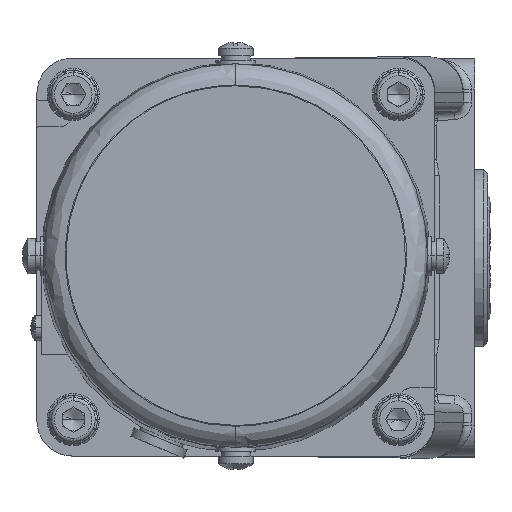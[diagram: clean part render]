
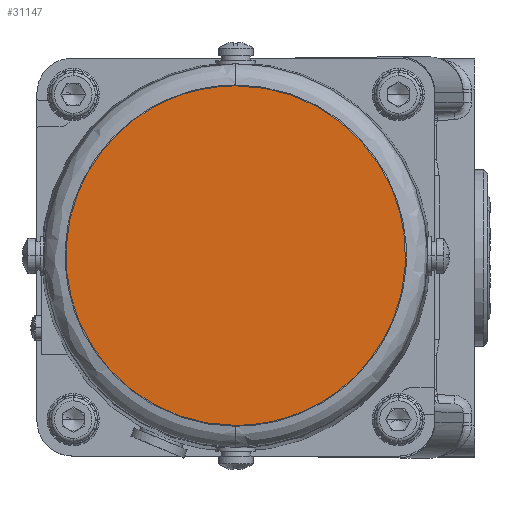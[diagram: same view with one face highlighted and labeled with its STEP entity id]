
A CAD part, top view. The second image highlights one B-rep face of the part: STEP entity #31147.
In plain terms, the highlighted planar face has unit normal (0, 0, 1) as drawn and (-1, 0, 0) by its records, which use the part's own axes.
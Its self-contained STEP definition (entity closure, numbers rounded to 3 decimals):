
#3934 = EDGE_CURVE ( 'NONE', #81786, #59804, #50076, .T. ) ;
#10383 = AXIS2_PLACEMENT_3D ( 'NONE', #56458, #63208, #23467 ) ;
#15197 = ORIENTED_EDGE ( 'NONE', *, *, #31630, .F. ) ;
#19739 = CARTESIAN_POINT ( 'NONE',  ( -112.349, 38.498, 188.502 ) ) ;
#22500 = FACE_OUTER_BOUND ( 'NONE', #26777, .T. ) ;
#23467 = DIRECTION ( 'NONE',  ( 0., 0., -1. ) ) ;
#26777 = EDGE_LOOP ( 'NONE', ( #15197, #42784 ) ) ;
#29198 = CARTESIAN_POINT ( 'NONE',  ( -112.349, 38.498, 111.702 ) ) ;
#30774 = CARTESIAN_POINT ( 'NONE',  ( -112.349, -38.302, 188.502 ) ) ;
#30866 = CARTESIAN_POINT ( 'NONE',  ( -112.349, -38.302, 265.302 ) ) ;
#31147 = ADVANCED_FACE ( 'NONE', ( #22500 ), #36430, .F. ) ;
#31630 = EDGE_CURVE ( 'NONE', #59804, #81786, #81480, .T. ) ;
#34491 = CARTESIAN_POINT ( 'NONE',  ( -112.349, 38.498, 188.502 ) ) ;
#34698 = CARTESIAN_POINT ( 'NONE',  ( -112.349, 38.498, 265.302 ) ) ;
#36430 = PLANE ( 'NONE',  #10383 ) ;
#42784 = ORIENTED_EDGE ( 'NONE', *, *, #3934, .F. ) ;
#50076 =( BOUNDED_CURVE ( )  B_SPLINE_CURVE ( 3, ( #34491, #34698, #30866, #30774 ),
 .UNSPECIFIED., .F., .F. ) 
 B_SPLINE_CURVE_WITH_KNOTS ( ( 4, 4 ),
 ( 0., 1. ),
 .UNSPECIFIED. ) 
 CURVE ( )  GEOMETRIC_REPRESENTATION_ITEM ( )  RATIONAL_B_SPLINE_CURVE ( ( 1., 0.333, 0.333, 1. ) ) 
 REPRESENTATION_ITEM ( '' )  );
#55239 = CARTESIAN_POINT ( 'NONE',  ( -112.349, -38.302, 111.702 ) ) ;
#56458 = CARTESIAN_POINT ( 'NONE',  ( -112.349, 0.098, 188.502 ) ) ;
#58109 = CARTESIAN_POINT ( 'NONE',  ( -112.349, -38.302, 188.502 ) ) ;
#59804 = VERTEX_POINT ( 'NONE', #58109 ) ;
#63208 = DIRECTION ( 'NONE',  ( 1., 0., 0. ) ) ;
#75731 = CARTESIAN_POINT ( 'NONE',  ( -112.349, 38.498, 188.502 ) ) ;
#81480 =( BOUNDED_CURVE ( )  B_SPLINE_CURVE ( 3, ( #82139, #55239, #29198, #75731 ),
 .UNSPECIFIED., .F., .F. ) 
 B_SPLINE_CURVE_WITH_KNOTS ( ( 4, 4 ),
 ( 0., 1. ),
 .UNSPECIFIED. ) 
 CURVE ( )  GEOMETRIC_REPRESENTATION_ITEM ( )  RATIONAL_B_SPLINE_CURVE ( ( 1., 0.333, 0.333, 1. ) ) 
 REPRESENTATION_ITEM ( '' )  );
#81786 = VERTEX_POINT ( 'NONE', #19739 ) ;
#82139 = CARTESIAN_POINT ( 'NONE',  ( -112.349, -38.302, 188.502 ) ) ;
